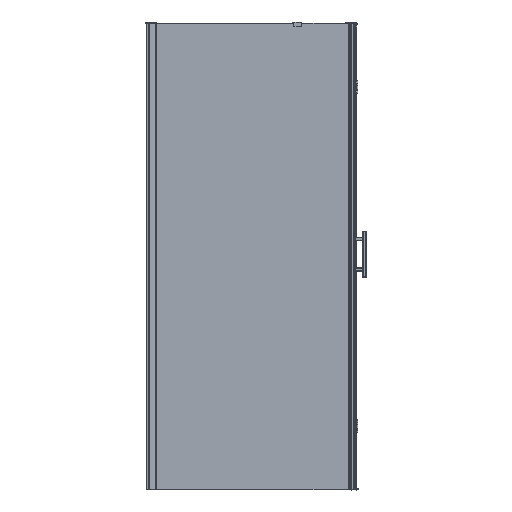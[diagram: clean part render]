
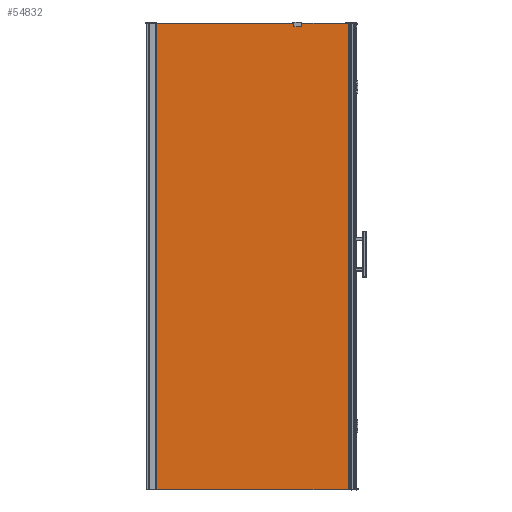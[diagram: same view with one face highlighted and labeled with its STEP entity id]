
A CAD part, top view. The second image highlights one B-rep face of the part: STEP entity #54832.
In plain terms, the highlighted planar face has unit normal (0, 0, 1).
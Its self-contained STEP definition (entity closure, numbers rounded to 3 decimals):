
#5901=FACE_OUTER_BOUND('',#9296,.T.);
#9296=EDGE_LOOP('',(#36291,#36292,#36293,#36294));
#12849=LINE('',#77158,#17666);
#12857=LINE('',#77173,#17674);
#12858=LINE('',#77175,#17675);
#12859=LINE('',#77176,#17676);
#17666=VECTOR('',#62985,10.);
#17674=VECTOR('',#62997,10.);
#17675=VECTOR('',#63000,10.);
#17676=VECTOR('',#63001,10.);
#22482=VERTEX_POINT('',#77154);
#22484=VERTEX_POINT('',#77157);
#22488=VERTEX_POINT('',#77169);
#22489=VERTEX_POINT('',#77171);
#27759=EDGE_CURVE('',#22482,#22484,#12849,.T.);
#27767=EDGE_CURVE('',#22488,#22489,#12857,.F.);
#27768=EDGE_CURVE('',#22488,#22482,#12858,.T.);
#27769=EDGE_CURVE('',#22484,#22489,#12859,.T.);
#36291=ORIENTED_EDGE('',*,*,#27768,.F.);
#36292=ORIENTED_EDGE('',*,*,#27767,.T.);
#36293=ORIENTED_EDGE('',*,*,#27769,.F.);
#36294=ORIENTED_EDGE('',*,*,#27759,.F.);
#53324=PLANE('',#58305);
#54832=ADVANCED_FACE('',(#5901),#53324,.T.);
#58305=AXIS2_PLACEMENT_3D('',#77174,#62998,#62999);
#62985=DIRECTION('',(0.,1.,0.));
#62997=DIRECTION('',(0.,-1.,0.));
#62998=DIRECTION('center_axis',(0.,0.,
1.));
#62999=DIRECTION('ref_axis',(1.,0.,0.));
#63000=DIRECTION('',(-1.,0.,0.));
#63001=DIRECTION('',(1.,0.,0.));
#77154=CARTESIAN_POINT('',(-1351.543,-1359.831,-919.));
#77157=CARTESIAN_POINT('',(-1351.543,590.169,-919.));
#77158=CARTESIAN_POINT('',(-1351.543,-1349.831,-919.));
#77169=CARTESIAN_POINT('',(-524.944,-1359.831,-919.));
#77171=CARTESIAN_POINT('',(-524.944,590.169,-919.));
#77173=CARTESIAN_POINT('',(-524.944,-1349.831,-919.));
#77174=CARTESIAN_POINT('Origin',(-1351.543,-1349.831,-919.));
#77175=CARTESIAN_POINT('',(-1119.894,-1359.831,-919.));
#77176=CARTESIAN_POINT('',(-1119.894,590.169,-919.));
